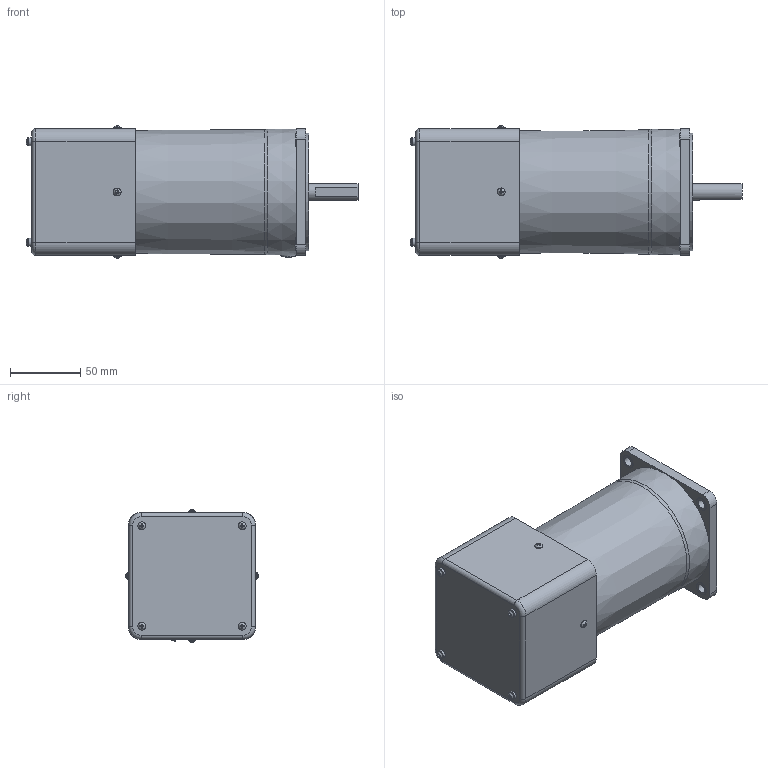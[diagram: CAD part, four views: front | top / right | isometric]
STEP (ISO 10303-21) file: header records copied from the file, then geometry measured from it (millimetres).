
FILE_DESCRIPTION((''),'2;1');
FILE_NAME('D:\yang\Yang cw\SPG 업무\2. DC MOTOR\7. DC MOTOR 브로슈어\AC MOTOR\90각 180W\STEP\S9I(R)180D-V.stp','2015-03-31T08:33:00',('ycw1227'),(''),'Autodesk Inventor 2013','Autodesk Inventor 2013','');
FILE_SCHEMA(('AUTOMOTIVE_DESIGN { 1 0 10303 214 1 1 1 1 }'));
Length unit declared in the file: millimetre
Products named in the file (1): 부품8
Bounding box: 235.75 x 93.89 x 93.89 mm (x, y, z)
Volume: 1086345.9 mm3; surface area: 110910.2 mm2
Topology: 1 solids, 7 shells, 284 faces, 681 edges, 439 vertices
Faces by surface type: plane 175, cylinder 69, torus 26, bspline 8, cone 6
Full cylindrical faces by diameter (mm): 3 x8, 4.5 x4, 5.6 x12, 6.5 x4, 8 x1, 9.5 x4, 10 x1, 12 x1, 40 x1, 83.5 x1
Entity records: 8661 total; most frequent: CARTESIAN_POINT 2154, DIRECTION 1226, ORIENTED_EDGE 1196, EDGE_CURVE 598, AXIS2_PLACEMENT_3D 452, VERTEX_POINT 425, EDGE_LOOP 399, VECTOR 322
